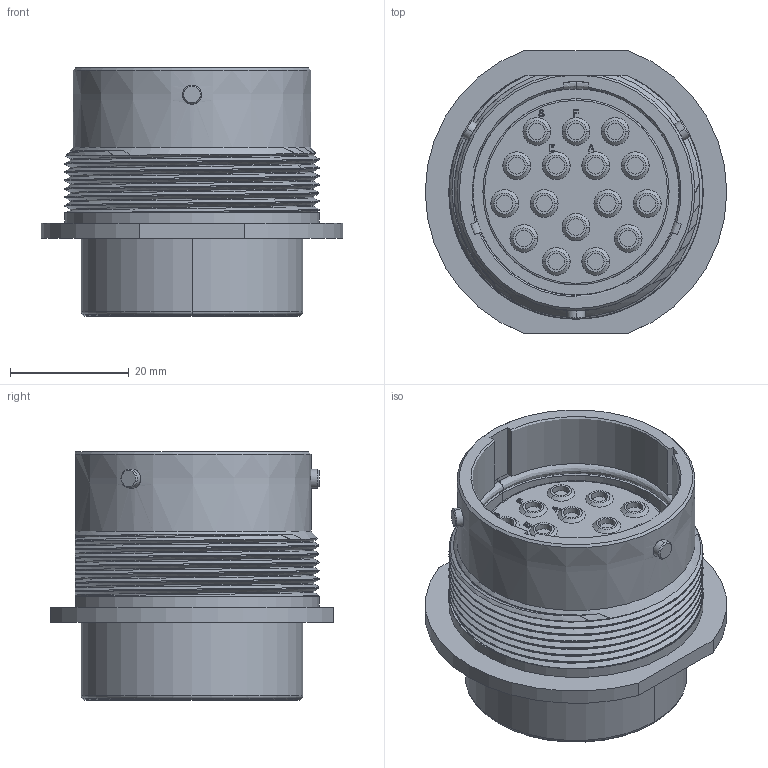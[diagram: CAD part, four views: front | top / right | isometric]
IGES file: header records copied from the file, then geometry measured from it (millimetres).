
Start section:  PTC IGES file: c-hd34-24-16pn-99-3d.igs
Global section: file name: c-hd34-24-16pn-99-3d.igs; native system: Pro/ENGINEER by Parametric Technology Corporation; preprocessor: 2010430; author: workeradm; organization: Unknown; units: millimetre
Bounding box: 50.8 x 47.62 x 41.83 mm (x, y, z)
Surface area: 13188.7 mm2 (no closed solid volume)
Topology: 0 solids, 0 shells, 445 faces, 2052 edges, 2052 vertices
Faces by surface type: revolution 228, bspline 217
